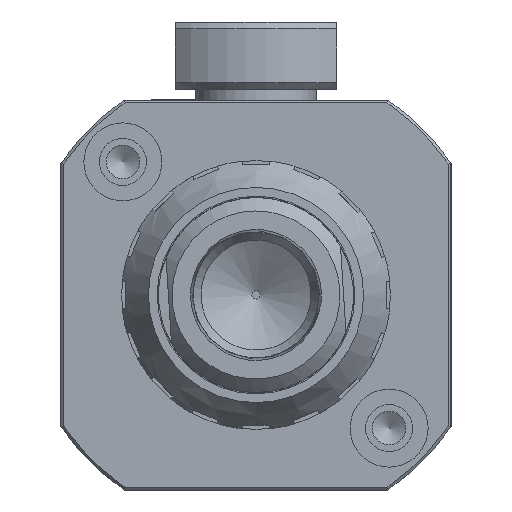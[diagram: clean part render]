
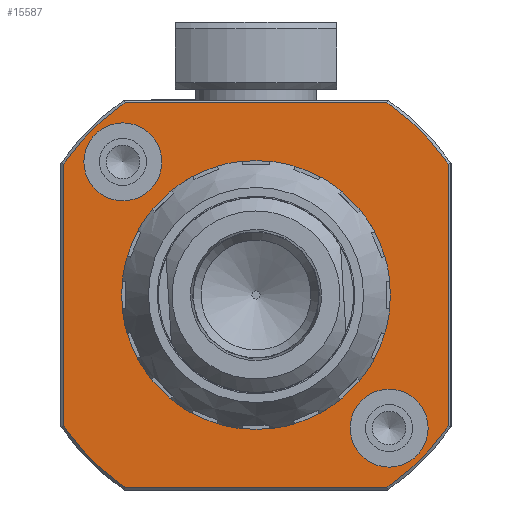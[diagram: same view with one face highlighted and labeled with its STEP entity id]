
A CAD part, front view. The second image highlights one B-rep face of the part: STEP entity #15587.
In plain terms, the highlighted planar face has unit normal (0, -1, 0).
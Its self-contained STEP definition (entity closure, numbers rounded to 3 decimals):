
#275 = CARTESIAN_POINT ( 'NONE',  ( 1.514, -65.859, 1012.899 ) ) ;
#967 = ORIENTED_EDGE ( 'NONE', *, *, #38112, .F. ) ;
#1255 = EDGE_LOOP ( 'NONE', ( #967 ) ) ;
#1485 = EDGE_LOOP ( 'NONE', ( #24136 ) ) ;
#1612 = LINE ( 'NONE', #16837, #41537 ) ;
#1656 = DIRECTION ( 'NONE',  ( -1., 0., 0. ) ) ;
#3058 = DIRECTION ( 'NONE',  ( -1., 0., 0. ) ) ;
#3401 = DIRECTION ( 'NONE',  ( 0., -1., 0. ) ) ;
#3461 = CARTESIAN_POINT ( 'NONE',  ( 20.987, -65.859, 984.299 ) ) ;
#3717 = LINE ( 'NONE', #19197, #25504 ) ;
#3872 = DIRECTION ( 'NONE',  ( 0., 1., 0. ) ) ;
#4156 = VECTOR ( 'NONE', #8161, 1000. ) ;
#5514 = AXIS2_PLACEMENT_3D ( 'NONE', #27499, #19789, #42675 ) ;
#6288 = FACE_BOUND ( 'NONE', #1255, .T. ) ;
#6874 = CARTESIAN_POINT ( 'NONE',  ( 21.15, -65.859, 988.699 ) ) ;
#7721 = ORIENTED_EDGE ( 'NONE', *, *, #42841, .F. ) ;
#7888 = CARTESIAN_POINT ( 'NONE',  ( 1.514, -65.859, 984.299 ) ) ;
#8161 = DIRECTION ( 'NONE',  ( -1., 0., 0. ) ) ;
#8253 = CARTESIAN_POINT ( 'NONE',  ( 11.251, -65.859, 998.599 ) ) ;
#8581 = ORIENTED_EDGE ( 'NONE', *, *, #46521, .F. ) ;
#9909 = CARTESIAN_POINT ( 'NONE',  ( 25.551, -65.859, 988.862 ) ) ;
#10089 = CIRCLE ( 'NONE', #25218, 17.3 ) ;
#10262 = AXIS2_PLACEMENT_3D ( 'NONE', #16880, #28306, #1656 ) ;
#11122 = ORIENTED_EDGE ( 'NONE', *, *, #14998, .F. ) ;
#11249 = CARTESIAN_POINT ( 'NONE',  ( -3.049, -65.859, 1008.335 ) ) ;
#11267 = CARTESIAN_POINT ( 'NONE',  ( 20.987, -65.859, 1012.899 ) ) ;
#11466 = VERTEX_POINT ( 'NONE', #11249 ) ;
#11467 = ORIENTED_EDGE ( 'NONE', *, *, #46367, .F. ) ;
#11555 = VERTEX_POINT ( 'NONE', #275 ) ;
#11604 = DIRECTION ( 'NONE',  ( -1., 0., 0. ) ) ;
#12180 = LINE ( 'NONE', #20640, #44107 ) ;
#13547 = CIRCLE ( 'NONE', #45345, 17.3 ) ;
#13909 = ORIENTED_EDGE ( 'NONE', *, *, #29741, .F. ) ;
#14330 = AXIS2_PLACEMENT_3D ( 'NONE', #6874, #3401, #15151 ) ;
#14530 = EDGE_CURVE ( 'NONE', #19539, #19539, #26256, .T. ) ;
#14998 = EDGE_CURVE ( 'NONE', #25276, #16290, #3717, .T. ) ;
#15088 = VERTEX_POINT ( 'NONE', #38442 ) ;
#15151 = DIRECTION ( 'NONE',  ( -1., 0., 0. ) ) ;
#15587 = ADVANCED_FACE ( 'NONE', ( #33450, #40405, #6288, #17791 ), #44413, .F. ) ;
#16290 = VERTEX_POINT ( 'NONE', #9909 ) ;
#16837 = CARTESIAN_POINT ( 'NONE',  ( 11.251, -65.859, 1012.899 ) ) ;
#16880 = CARTESIAN_POINT ( 'NONE',  ( 1.351, -65.859, 1008.498 ) ) ;
#16907 = EDGE_LOOP ( 'NONE', ( #11122, #8581, #7721, #30481, #45390, #13909, #31703, #35945 ) ) ;
#17289 = DIRECTION ( 'NONE',  ( 1., 0., 0. ) ) ;
#17586 = DIRECTION ( 'NONE',  ( -1., 0., 0. ) ) ;
#17791 = FACE_OUTER_BOUND ( 'NONE', #16907, .T. ) ;
#18309 = AXIS2_PLACEMENT_3D ( 'NONE', #43914, #43672, #17289 ) ;
#19197 = CARTESIAN_POINT ( 'NONE',  ( 25.551, -65.859, 998.599 ) ) ;
#19539 = VERTEX_POINT ( 'NONE', #45183 ) ;
#19542 = EDGE_LOOP ( 'NONE', ( #11467 ) ) ;
#19758 = AXIS2_PLACEMENT_3D ( 'NONE', #44899, #40895, #3058 ) ;
#19789 = DIRECTION ( 'NONE',  ( 0., 1., 0. ) ) ;
#19932 = VERTEX_POINT ( 'NONE', #7888 ) ;
#20640 = CARTESIAN_POINT ( 'NONE',  ( -3.049, -65.859, 1008.397 ) ) ;
#23882 = AXIS2_PLACEMENT_3D ( 'NONE', #8253, #34413, #38874 ) ;
#24136 = ORIENTED_EDGE ( 'NONE', *, *, #14530, .F. ) ;
#25218 = AXIS2_PLACEMENT_3D ( 'NONE', #41231, #3872, #11604 ) ;
#25276 = VERTEX_POINT ( 'NONE', #47007 ) ;
#25504 = VECTOR ( 'NONE', #26901, 1000. ) ;
#26256 = CIRCLE ( 'NONE', #18309, 10. ) ;
#26472 = EDGE_CURVE ( 'NONE', #16290, #37257, #10089, .T. ) ;
#26901 = DIRECTION ( 'NONE',  ( 0., 0., -1. ) ) ;
#26932 = VERTEX_POINT ( 'NONE', #27731 ) ;
#27499 = CARTESIAN_POINT ( 'NONE',  ( 11.251, -65.859, 998.599 ) ) ;
#27731 = CARTESIAN_POINT ( 'NONE',  ( -3.049, -65.859, 988.862 ) ) ;
#28306 = DIRECTION ( 'NONE',  ( 0., -1., 0. ) ) ;
#28606 = CIRCLE ( 'NONE', #5514, 17.3 ) ;
#28776 = CARTESIAN_POINT ( 'NONE',  ( -1.549, -65.859, 1008.498 ) ) ;
#29741 = EDGE_CURVE ( 'NONE', #19932, #26932, #42123, .T. ) ;
#30481 = ORIENTED_EDGE ( 'NONE', *, *, #45704, .F. ) ;
#31703 = ORIENTED_EDGE ( 'NONE', *, *, #49182, .F. ) ;
#31995 = DIRECTION ( 'NONE',  ( 1., 0., 0. ) ) ;
#32507 = VERTEX_POINT ( 'NONE', #28776 ) ;
#33388 = CIRCLE ( 'NONE', #14330, 2.9 ) ;
#33450 = FACE_BOUND ( 'NONE', #1485, .T. ) ;
#34413 = DIRECTION ( 'NONE',  ( 0., 1., 0. ) ) ;
#34803 = CARTESIAN_POINT ( 'NONE',  ( 11.251, -65.859, 984.299 ) ) ;
#35805 = DIRECTION ( 'NONE',  ( 0., 0., -1. ) ) ;
#35945 = ORIENTED_EDGE ( 'NONE', *, *, #26472, .F. ) ;
#35962 = VERTEX_POINT ( 'NONE', #11267 ) ;
#37257 = VERTEX_POINT ( 'NONE', #3461 ) ;
#38112 = EDGE_CURVE ( 'NONE', #32507, #32507, #47663, .T. ) ;
#38442 = CARTESIAN_POINT ( 'NONE',  ( 18.25, -65.859, 988.699 ) ) ;
#38874 = DIRECTION ( 'NONE',  ( -1., 0., 0. ) ) ;
#40405 = FACE_BOUND ( 'NONE', #19542, .T. ) ;
#40710 = CARTESIAN_POINT ( 'NONE',  ( 11.251, -65.859, 998.599 ) ) ;
#40895 = DIRECTION ( 'NONE',  ( 0., 1., 0. ) ) ;
#41231 = CARTESIAN_POINT ( 'NONE',  ( 11.251, -65.859, 998.599 ) ) ;
#41537 = VECTOR ( 'NONE', #31995, 1000. ) ;
#42041 = LINE ( 'NONE', #34803, #4156 ) ;
#42123 = CIRCLE ( 'NONE', #23882, 17.3 ) ;
#42675 = DIRECTION ( 'NONE',  ( 0., 0., 1. ) ) ;
#42841 = EDGE_CURVE ( 'NONE', #11555, #35962, #1612, .T. ) ;
#43672 = DIRECTION ( 'NONE',  ( 0., -1., 0. ) ) ;
#43914 = CARTESIAN_POINT ( 'NONE',  ( 11.251, -65.859, 998.599 ) ) ;
#44107 = VECTOR ( 'NONE', #35805, 1000. ) ;
#44206 = DIRECTION ( 'NONE',  ( 0., 1., 0. ) ) ;
#44413 = PLANE ( 'NONE',  #19758 ) ;
#44899 = CARTESIAN_POINT ( 'NONE',  ( 11.251, -65.859, 998.599 ) ) ;
#45028 = EDGE_CURVE ( 'NONE', #11466, #26932, #12180, .T. ) ;
#45183 = CARTESIAN_POINT ( 'NONE',  ( 21.251, -65.859, 998.599 ) ) ;
#45345 = AXIS2_PLACEMENT_3D ( 'NONE', #40710, #44206, #17586 ) ;
#45390 = ORIENTED_EDGE ( 'NONE', *, *, #45028, .T. ) ;
#45704 = EDGE_CURVE ( 'NONE', #11466, #11555, #28606, .T. ) ;
#46367 = EDGE_CURVE ( 'NONE', #15088, #15088, #33388, .T. ) ;
#46521 = EDGE_CURVE ( 'NONE', #35962, #25276, #13547, .T. ) ;
#47007 = CARTESIAN_POINT ( 'NONE',  ( 25.551, -65.859, 1008.335 ) ) ;
#47663 = CIRCLE ( 'NONE', #10262, 2.9 ) ;
#49182 = EDGE_CURVE ( 'NONE', #37257, #19932, #42041, .T. ) ;
